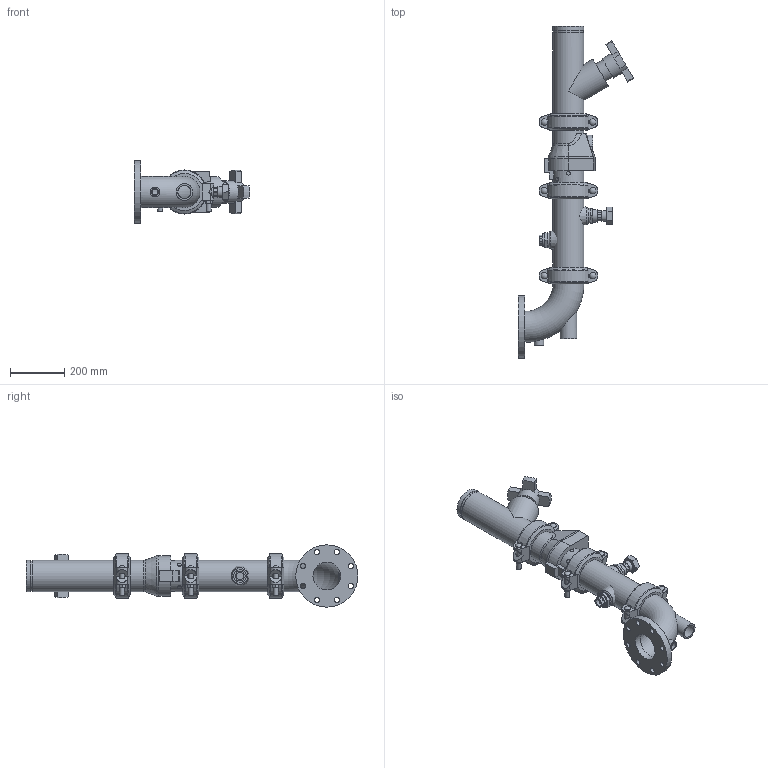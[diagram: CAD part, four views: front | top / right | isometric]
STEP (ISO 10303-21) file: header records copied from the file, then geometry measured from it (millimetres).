
FILE_DESCRIPTION(/* description */ ('VIC DVI PUMP DROP HORZ S/383 (OGSxFLG) (S/924-1.25)','CAx-IF Rec.Pracs.---Representation and Presentation of Product Manufacturing Information (PMI)---4.0---2014-10-13'),/* implementation_level */ '2;1');
FILE_NAME(/* name */ 'C:\Users\kkamble\AppData\Roaming\Autodesk\ApplicationPlugins\Victaulic.Temp\A821\CL 150_Series 383 (OGSxFLG)_924 (1.25)_04.0x04.0 (100x100).stp',/* time_stamp */ '2022-03-16T18:45:25+05:00',/* author */ ('kkamble'),/* organization */ ('Victaulic'),/* preprocessor_version */ 'ST-DEVELOPER v17.2',/* originating_system */ 'Autodesk Inventor 2019',/* authorisation */ '');
FILE_SCHEMA (('AP242_MANAGED_MODEL_BASED_3D_ENGINEERING_MIM_LF { 1 0 10303 442 1 1 4 }'));
Length unit declared in the file: inch
Products named in the file (8): 383_924 (1.25)-04.0x04.0; Pipe-04.0x04.0; 789-04.0; 177N-04.0; 779-04.0; 923-04.0x0.75; 924-04.0x01.25; 100F-04.0
Assembly tree (9 placements, depth 2):
  383_924 (1.25)-04.0x04.0
    177N-04.0  x3
    Pipe-04.0x04.0
    789-04.0
    779-04.0
    923-04.0x0.75
    924-04.0x01.25
    100F-04.0
Bounding box: 423.93 x 1219.2 x 228.6 mm (x, y, z)
Volume: 8359226.2 mm3; surface area: 1448446.3 mm2
Topology: 9 solids, 10 shells, 547 faces, 1449 edges, 966 vertices
Faces by surface type: plane 317, cylinder 184, torus 21, cone 17, sphere 6, bspline 2
Full cylindrical faces by diameter (mm): 13.716 x2, 17.424 x6, 19.05 x8, 20.93 x1, 21.336 x1, 23.495 x6, 26.67 x4, 34.29 x1, 38.608 x1, 42.164 x1, 45.974 x4, 48.26 x1, 48.514 x1, 55.626 x2, 60.96 x1, 72.39 x1, 82.55 x1, 101.6 x3, 102.26 x5, 110.084 x7, 114.3 x18, 228.6 x1
Entity records: 12479 total; most frequent: CARTESIAN_POINT 2653, DIRECTION 2020, ORIENTED_EDGE 1846, EDGE_CURVE 923, AXIS2_PLACEMENT_3D 771, VERTEX_POINT 622, LINE 478, VECTOR 478
